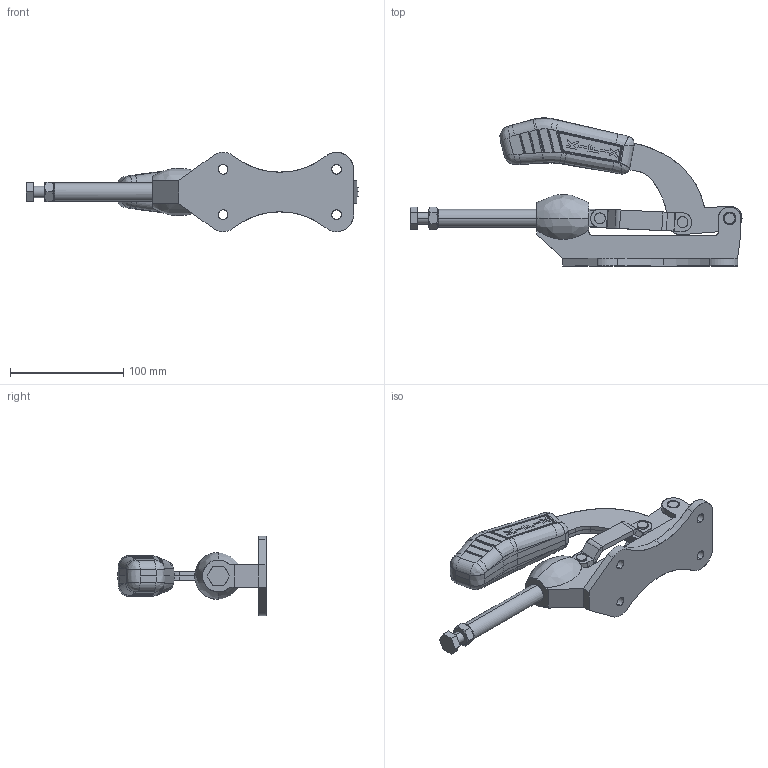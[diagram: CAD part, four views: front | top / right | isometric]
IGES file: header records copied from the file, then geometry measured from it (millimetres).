
Start section: SolidWorks IGES file using analytic representation for surfaces
Global section: file name: C:\Projetos\Grampos\KF-053\KF-053.IGS; native system: SolidWorks 2013; preprocessor: SolidWorks 2013; author: Ricardo; date: 140825.150721; units: millimetre
Bounding box: 292.66 x 130.58 x 70 mm (x, y, z)
Surface area: 106061.2 mm2 (no closed solid volume)
Topology: 0 solids, 0 shells, 655 faces, 7014 edges, 6987 vertices
Faces by surface type: bspline 382, revolution 273
